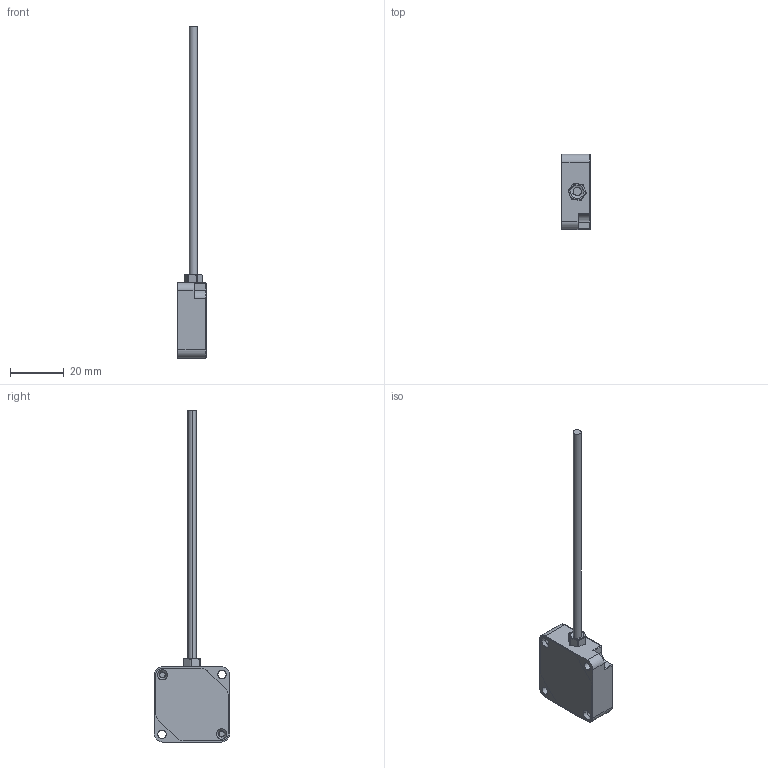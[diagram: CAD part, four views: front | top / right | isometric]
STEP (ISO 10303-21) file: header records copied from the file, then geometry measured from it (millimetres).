
FILE_DESCRIPTION (( 'STEP AP203' ), '1' );
FILE_NAME ('DATA20_0912_旳眻.STEP', '2023-09-12T06:03:27', ( '' ), ( '' ), 'SwSTEP 2.0', 'SolidWorks 2022', '' );
FILE_SCHEMA (( 'CONFIG_CONTROL_DESIGN' ));
Length unit declared in the file: millimetre
Products named in the file (6): omg10_滅阨盄_0906; New_Navigation_Up; New_Navigation_Omg10_荂豪_DATA20; New_Navigation_Omg10_2; DATA20_0912_旳眻; Gland_Nut_0724
Assembly tree (5 placements, depth 2):
  DATA20_0912_旳眻
    New_Navigation_Omg10_2
    Gland_Nut_0724
    New_Navigation_Up
    omg10_滅阨盄_0906
    New_Navigation_Omg10_荂豪_DATA20
Bounding box: 10.51 x 28 x 123.65 mm (x, y, z)
Volume: 4206.2 mm3; surface area: 6765.2 mm2
Topology: 155 solids, 155 shells, 1910 faces, 4731 edges, 3136 vertices
Faces by surface type: plane 1366, bspline 392, cylinder 124, torus 14, cone 10, sphere 4
Entity records: 75322 total; most frequent: CARTESIAN_POINT 31874, ORIENTED_EDGE 9454, DIRECTION 7243, EDGE_CURVE 4727, LINE 3655, VECTOR 3655, VERTEX_POINT 3136, EDGE_LOOP 1985
